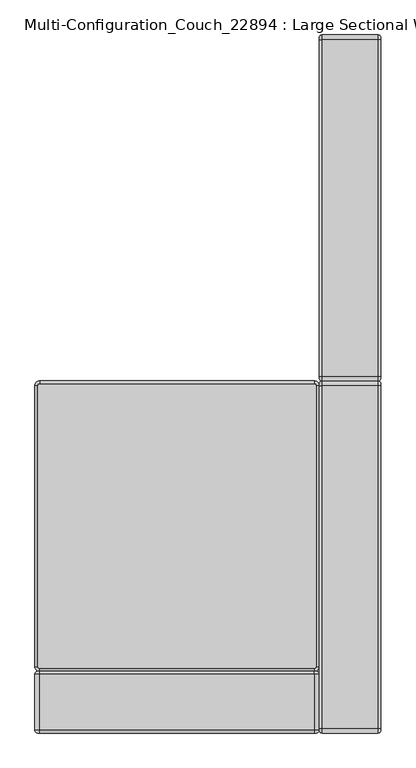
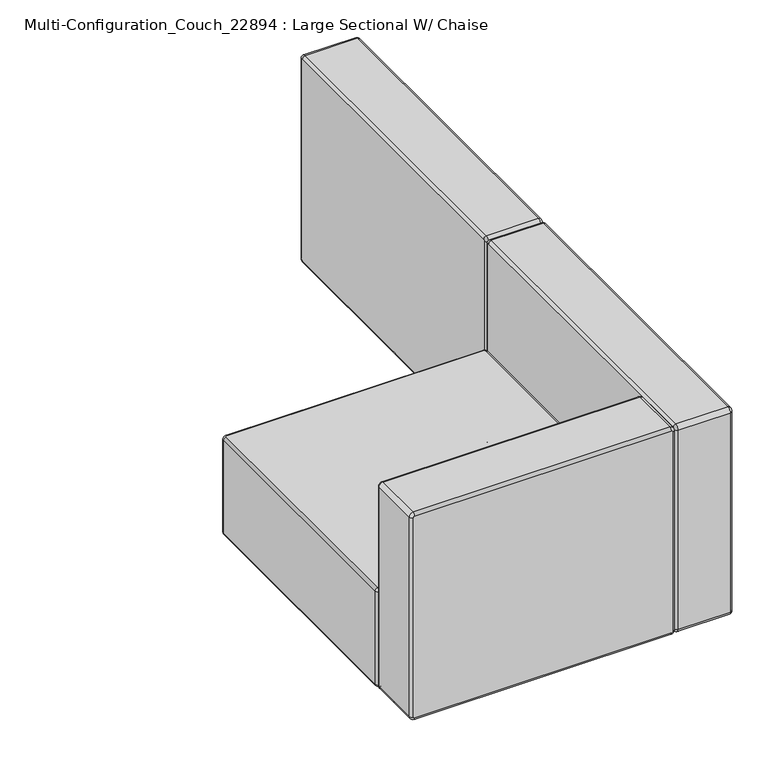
"""IFC4 building model written with IfcOpenShell, lengths in millimetres: furniture geometry, Multi-Configuration_Couch_22894 : Large Sectional W/ Chaise."""

from ifc_helpers import new_model, si_unit, point, frame, origin, place, context, project, spatial, circle_curve, ellipse_curve, trimmed, source, transform, mapped, element, save
from ifc_brep_helpers import plane_surface, cylinder_surface, revolved_surface, advanced_brep


def multi_configuration_couch_22894_large_sectional_w_chaise_e7fac233(model_context):
    return source(origin(), model_context, "Body", "AdvancedBrep", [
        advanced_brep(
        [(1868.7737705, -98.4770492, 549.275), (1868.7737705, -95.3020492, 552.45), (1868.7737705, 596.8479508, 552.45), (1868.7737705, 600.0229508, 549.275), (1868.7737705, 600.0229508, 85.725), (1868.7737705, 596.8479508, 82.55), (1868.7737705, -95.3020492, 82.55), (1868.7737705, -98.4770492, 85.725), (1995.7737705, -98.4770492, 85.725), (1995.7737705, -95.3020492, 82.55), (1995.7737705, 596.8479508, 82.55), (1995.7737705, 600.0229508, 85.725), (1995.7737705, 600.0229508, 549.275), (1995.7737705, 596.8479508, 552.45), (1995.7737705, -95.3020492, 552.45), (1995.7737705, -98.4770492, 549.275), (1875.1237705, -95.3020492, 558.8), (1989.4237705, -95.3020492, 558.8), (1989.4237705, 596.8479508, 558.8), (1875.1237641, 596.8479508, 558.8), (1875.1237705, -104.8270492, 85.725), (1989.4237705, -104.8270492, 85.725), (1989.4237705, -104.8270492, 549.275), (1875.1237705, -104.8270492, 549.275), (1875.1237705, 596.8479508, 76.2), (1989.4237705, 596.8479508, 76.2), (1989.4237705, -95.3020492, 76.2), (1875.1237705, -95.3020492, 76.2), (1875.1237705, 606.3729508, 549.275), (1989.4237705, 606.3729508, 549.275), (1989.4237705, 606.3729508, 85.725), (1875.1237705, 606.3729508, 85.725)],
        [
            (0, 1, circle_curve(frame((1868.7737705, -95.3020492, 549.275), z_axis=(-1.0, 0.0, 0.0), x_axis=(0.0, 0.0, 1.0)), 3.175)),
            (1, 2),
            (2, 3, circle_curve(frame((1868.7737705, 596.8479508, 549.275), z_axis=(-1.0, 0.0, 0.0), x_axis=(0.0, 1.0, 0.0)), 3.175)),
            (3, 4),
            (4, 5, circle_curve(frame((1868.7737705, 596.8479508, 85.725), z_axis=(-1.0, 0.0, 0.0), x_axis=(0.0, 0.0, -1.0)), 3.175)),
            (5, 6),
            (6, 7, circle_curve(frame((1868.7737705, -95.3020492, 85.725), z_axis=(-1.0, 0.0, 0.0), x_axis=(0.0, -1.0, 0.0)), 3.175)),
            (7, 0),
            (8, 9, circle_curve(frame((1995.7737705, -95.3020492, 85.725), z_axis=(1.0, 0.0, 0.0), x_axis=(0.0, -1.0, 0.0)), 3.175)),
            (9, 10),
            (10, 11, circle_curve(frame((1995.7737705, 596.8479508, 85.725), z_axis=(1.0, 0.0, 0.0), x_axis=(0.0, 0.0, -1.0)), 3.175)),
            (11, 12),
            (12, 13, circle_curve(frame((1995.7737705, 596.8479508, 549.275), z_axis=(1.0, 0.0, 0.0), x_axis=(0.0, 1.0, 0.0)), 3.175)),
            (13, 14),
            (14, 15, circle_curve(frame((1995.7737705, -95.3020492, 549.275), z_axis=(1.0, 0.0, 0.0), x_axis=(0.0, 0.0, 1.0)), 3.175)),
            (15, 8),
            (16, 17),
            (17, 18),
            (18, 19),
            (19, 16),
            (20, 21),
            (21, 22),
            (22, 23),
            (23, 20),
            (24, 25),
            (25, 26),
            (26, 27),
            (27, 24),
            (28, 29),
            (29, 30),
            (30, 31),
            (31, 28),
            (22, 17, circle_curve(frame((1989.4237705, -95.3020492, 549.275), z_axis=(-1.0, 0.0, 0.0), x_axis=(0.0, 1.0, 0.0)), 9.525)),
            (16, 23, circle_curve(frame((1875.1237705, -95.3020492, 549.275), z_axis=(1.0, 0.0, 0.0), x_axis=(0.0, 1.0, 0.0)), 9.525)),
            (18, 29, circle_curve(frame((1989.4237705, 596.8479508, 549.275), z_axis=(-1.0, 0.0, 0.0), x_axis=(0.0, 1.0, 0.0)), 9.525)),
            (28, 19, circle_curve(frame((1875.1237705, 596.8479508, 549.275), z_axis=(1.0, 0.0, 0.0), x_axis=(0.0, 1.0, 0.0)), 9.525)),
            (26, 21, circle_curve(frame((1989.4237705, -95.3020492, 85.725), z_axis=(-1.0, 0.0, 0.0), x_axis=(0.0, 1.0, 0.0)), 9.525)),
            (20, 27, circle_curve(frame((1875.1237705, -95.3020492, 85.725), z_axis=(1.0, 0.0, 0.0), x_axis=(0.0, 1.0, 0.0)), 9.525)),
            (30, 25, circle_curve(frame((1989.4237705, 596.8479508, 85.725), z_axis=(-1.0, 0.0, 0.0), x_axis=(0.0, 1.0, 0.0)), 9.525)),
            (24, 31, circle_curve(frame((1875.1237705, 596.8479508, 85.725), z_axis=(1.0, 0.0, 0.0), x_axis=(0.0, 1.0, 0.0)), 9.525)),
            (23, 0, circle_curve(frame((1875.1237705, -98.4770492, 549.275), z_axis=(0.0, 0.0, -1.0), x_axis=(0.0, 1.0, 0.0)), 6.35)),
            (7, 20, circle_curve(frame((1875.1237705, -98.4770492, 85.725), z_axis=(0.0, 0.0, 1.0), x_axis=(0.0, 1.0, 0.0)), 6.35)),
            (27, 6, circle_curve(frame((1875.1237705, -95.3020492, 82.55), z_axis=(0.0, 1.0, 0.0), x_axis=(0.0, 0.0, 1.0)), 6.35)),
            (5, 24, circle_curve(frame((1875.1237705, 596.8479508, 82.55), z_axis=(0.0, -1.0, 0.0), x_axis=(0.0, 0.0, 1.0)), 6.35)),
            (31, 4, circle_curve(frame((1875.1237705, 600.0229508, 85.725), z_axis=(0.0, 0.0, 1.0), x_axis=(0.0, -1.0, 0.0)), 6.35)),
            (3, 28, circle_curve(frame((1875.1237705, 600.0229508, 549.275), z_axis=(0.0, 0.0, -1.0), x_axis=(0.0, -1.0, 0.0)), 6.35)),
            (2, 19, circle_curve(frame((1875.1237705, 596.8479508, 552.45), z_axis=(0.0, 1.0, 0.0), x_axis=(0.0, 0.0, -1.0)), 6.35)),
            (1, 16, circle_curve(frame((1875.1237705, -95.3020492, 552.45), z_axis=(0.0, 1.0, 0.0), x_axis=(0.0, 0.0, -1.0)), 6.35)),
            (15, 22, circle_curve(frame((1989.4237705, -98.4770492, 549.275), z_axis=(0.0, 0.0, -1.0), x_axis=(0.0, 1.0, 0.0)), 6.35)),
            (21, 8, circle_curve(frame((1989.4237705, -98.4770492, 85.725), z_axis=(0.0, 0.0, 1.0), x_axis=(0.0, 1.0, 0.0)), 6.35)),
            (9, 26, circle_curve(frame((1989.4237705, -95.3020492, 82.55), z_axis=(0.0, 1.0, 0.0), x_axis=(0.0, 0.0, 1.0)), 6.35)),
            (25, 10, circle_curve(frame((1989.4237705, 596.8479508, 82.55), z_axis=(0.0, -1.0, 0.0), x_axis=(0.0, 0.0, 1.0)), 6.35)),
            (11, 30, circle_curve(frame((1989.4237705, 600.0229508, 85.725), z_axis=(0.0, 0.0, 1.0), x_axis=(0.0, -1.0, 0.0)), 6.35)),
            (29, 12, circle_curve(frame((1989.4237705, 600.0229508, 549.275), z_axis=(0.0, 0.0, -1.0), x_axis=(0.0, -1.0, 0.0)), 6.35)),
            (13, 18, circle_curve(frame((1989.4237705, 596.8479508, 552.45), z_axis=(0.0, -1.0, 0.0), x_axis=(0.0, 0.0, -1.0)), 6.35)),
            (17, 14, circle_curve(frame((1989.4237705, -95.3020492, 552.45), z_axis=(0.0, 1.0, 0.0), x_axis=(0.0, 0.0, -1.0)), 6.35)),
        ],
        [
            plane_surface(frame((1868.7737705, -104.8270492, 558.8), z_axis=(-1.0, 0.0, 0.0), x_axis=(0.0, -1.0, 0.0))),
            plane_surface(frame((1995.7737705, -104.8270492, 558.8), z_axis=(1.0, 0.0, 0.0), x_axis=(0.0, 1.0, 0.0))),
            plane_surface(frame((1868.7737705, 606.3729508, 558.8), z_axis=(0.0, 0.0, 1.0), x_axis=(1.0, 0.0, 0.0))),
            plane_surface(frame((1868.7737705, -104.8270492, 558.8), z_axis=(0.0, -1.0, 0.0), x_axis=(1.0, 0.0, 0.0))),
            plane_surface(frame((1868.7737705, -104.8270492, 76.2), z_axis=(0.0, 0.0, -1.0), x_axis=(1.0, 0.0, 0.0))),
            plane_surface(frame((1868.7737705, 606.3729508, 76.2), z_axis=(0.0, 1.0, 0.0), x_axis=(1.0, 0.0, 0.0))),
            cylinder_surface(frame((1995.7737705, -95.3020492, 549.275), z_axis=(1.0, 0.0, 0.0), x_axis=(0.0, 1.0, 0.0)), 9.525),
            cylinder_surface(frame((1995.7737705, 596.8479508, 549.275), z_axis=(1.0, 0.0, 0.0), x_axis=(0.0, 1.0, 0.0)), 9.525),
            cylinder_surface(frame((1995.7737705, -95.3020492, 85.725), z_axis=(1.0, 0.0, 0.0), x_axis=(0.0, 1.0, 0.0)), 9.525),
            cylinder_surface(frame((1995.7737705, 596.8479508, 85.725), z_axis=(1.0, 0.0, 0.0), x_axis=(0.0, 1.0, 0.0)), 9.525),
            cylinder_surface(frame((1875.1237705, -98.4770492, 549.275), z_axis=(0.0, 0.0, -1.0), x_axis=(0.0, 1.0, 0.0)), 6.35),
            cylinder_surface(frame((1875.1237705, -95.3020492, 82.55), z_axis=(0.0, 1.0, 0.0), x_axis=(0.0, 0.0, 1.0)), 6.35),
            cylinder_surface(frame((1875.1237705, 600.0229508, 85.725), z_axis=(0.0, 0.0, 1.0), x_axis=(0.0, -1.0, 0.0)), 6.35),
            revolved_surface(trimmed(ellipse_curve(frame((1875.1237705, 600.0229508, 549.275), z_axis=(0.0, 0.0, 1.0), x_axis=(0.0, -1.0, 0.0)), 6.35, 6.35), [point((1875.1237705, 606.3729508, 549.275))], [point((1868.7737705, 600.0229508, 549.275))], True, "CARTESIAN"), (1868.7737705, 596.8479508, 549.275), (-1.0, 0.0, 0.0)),
            cylinder_surface(frame((1875.1237705, 596.8479508, 552.45), z_axis=(0.0, -1.0, 0.0), x_axis=(0.0, 0.0, -1.0)), 6.35),
            cylinder_surface(frame((1989.4237705, -98.4770492, 549.275), z_axis=(0.0, 0.0, -1.0), x_axis=(0.0, 1.0, 0.0)), 6.35),
            cylinder_surface(frame((1989.4237705, -95.3020492, 82.55), z_axis=(0.0, 1.0, 0.0), x_axis=(0.0, 0.0, 1.0)), 6.35),
            cylinder_surface(frame((1989.4237705, 600.0229508, 85.725), z_axis=(0.0, 0.0, 1.0), x_axis=(0.0, -1.0, 0.0)), 6.35),
            cylinder_surface(frame((1989.4237705, 596.8479508, 552.45), z_axis=(0.0, -1.0, 0.0), x_axis=(0.0, 0.0, -1.0)), 6.35),
            revolved_surface(trimmed(ellipse_curve(frame((1875.1237705, -95.3020492, 552.45), z_axis=(0.0, -1.0, 0.0), x_axis=(0.0, 0.0, -1.0)), 6.35, 6.35), [point((1875.1237705, -95.3020492, 558.8))], [point((1868.7737705, -95.3020492, 552.45))], True, "CARTESIAN"), (1868.7737705, -95.3020492, 549.275), (-1.0, 0.0, 0.0)),
            revolved_surface(trimmed(ellipse_curve(frame((1875.1237705, -98.4770492, 85.725), z_axis=(0.0, 0.0, -1.0), x_axis=(0.0, 1.0, 0.0)), 6.35, 6.35), [point((1875.1237705, -104.8270492, 85.725))], [point((1868.7737705, -98.4770492, 85.725))], True, "CARTESIAN"), (1868.7737705, -95.3020492, 85.725), (-1.0, 0.0, 0.0)),
            revolved_surface(trimmed(ellipse_curve(frame((1875.1237705, 596.8479508, 82.55), z_axis=(0.0, 1.0, 0.0), x_axis=(0.0, 0.0, 1.0)), 6.35, 6.35), [point((1875.1237705, 596.8479508, 76.2))], [point((1868.7737705, 596.8479508, 82.55))], True, "CARTESIAN"), (1868.7737705, 596.8479508, 85.725), (-1.0, 0.0, 0.0)),
            revolved_surface(trimmed(ellipse_curve(frame((1989.4237705, -95.3020492, 552.45), z_axis=(0.0, -1.0, 0.0), x_axis=(0.0, 0.0, -1.0)), 6.35, 6.35), [point((1995.7737705, -95.3020492, 552.45))], [point((1989.4237705, -95.3020492, 558.8))], True, "CARTESIAN"), (1995.7737705, -95.3020492, 549.275), (-1.0, 0.0, 0.0)),
            revolved_surface(trimmed(ellipse_curve(frame((1989.4237705, -98.4770492, 85.725), z_axis=(0.0, 0.0, -1.0), x_axis=(0.0, 1.0, 0.0)), 6.35, 6.35), [point((1995.7737705, -98.4770492, 85.725))], [point((1989.4237705, -104.8270492, 85.725))], True, "CARTESIAN"), (1995.7737705, -95.3020492, 85.725), (-1.0, 0.0, 0.0)),
            revolved_surface(trimmed(ellipse_curve(frame((1989.4237705, 596.8479508, 82.55), z_axis=(0.0, 1.0, 0.0), x_axis=(0.0, 0.0, 1.0)), 6.35, 6.35), [point((1995.7737705, 596.8479508, 82.55))], [point((1989.4237705, 596.8479508, 76.2))], True, "CARTESIAN"), (1995.7737705, 596.8479508, 85.725), (-1.0, 0.0, 0.0)),
            revolved_surface(trimmed(ellipse_curve(frame((1989.4237705, 600.0229508, 549.275), z_axis=(0.0, 0.0, 1.0), x_axis=(0.0, -1.0, 0.0)), 6.35, 6.35), [point((1995.7737705, 600.0229508, 549.275))], [point((1989.4237705, 606.3729508, 549.275))], True, "CARTESIAN"), (1995.7737705, 596.8479508, 549.275), (-1.0, 0.0, 0.0)),
        ],
        [
            (0, [[1, 2, 3, 4, 5, 6, 7, 8]]),
            (1, [[9, 10, 11, 12, 13, 14, 15, 16]]),
            (2, [[17, 18, 19, 20]]),
            (3, [[21, 22, 23, 24]]),
            (4, [[25, 26, 27, 28]]),
            (5, [[29, 30, 31, 32]]),
            (6, [[-23, 33, -17, 34]]),
            (7, [[-19, 35, -29, 36]]),
            (8, [[-27, 37, -21, 38]]),
            (9, [[-31, 39, -25, 40]]),
            (10, [[-24, 41, -8, 42]]),
            (11, [[-28, 43, -6, 44]]),
            (12, [[-32, 45, -4, 46]]),
            (13, [[-3, 47, -36, -46]]),
            (14, [[-2, 48, -20, -47]]),
            (15, [[-16, 49, -22, 50]]),
            (16, [[-10, 51, -26, 52]]),
            (17, [[-12, 53, -30, 54]]),
            (18, [[-14, 55, -18, 56]]),
            (19, [[-34, -48, -1, -41]]),
            (20, [[-7, -43, -38, -42]]),
            (21, [[-5, -45, -40, -44]]),
            (22, [[-15, -56, -33, -49]]),
            (23, [[-37, -51, -9, -50]]),
            (24, [[-39, -53, -11, -52]]),
            (25, [[-35, -55, -13, -54]]),
        ],
    ),
        advanced_brep(
        [(1868.7737705, -822.3770492, 549.275), (1868.7737705, -819.2020492, 552.45), (1868.7737705, -114.3520492, 552.45), (1868.7737705, -111.1770492, 549.275), (1868.7737705, -111.1770492, 85.725), (1868.7737705, -114.3520492, 82.55), (1868.7737705, -819.2020492, 82.55), (1868.7737705, -822.3770492, 85.725), (1995.7737705, -822.3770492, 85.725), (1995.7737705, -819.2020492, 82.55), (1995.7737705, -114.3520492, 82.55), (1995.7737705, -111.1770492, 85.725), (1995.7737705, -111.1770492, 549.275), (1995.7737705, -114.3520492, 552.45), (1995.7737705, -819.2020492, 552.45), (1995.7737705, -822.3770492, 549.275), (1875.1237705, -819.2020492, 558.8), (1989.4237705, -819.2020492, 558.8), (1989.4237705, -114.3520492, 558.8), (1875.1237641, -114.3520492, 558.8), (1875.1237705, -828.7270492, 85.725), (1989.4237705, -828.7270492, 85.725), (1989.4237705, -828.7270492, 549.275), (1875.1237705, -828.7270492, 549.275), (1875.1237705, -114.3520492, 76.2), (1989.4237705, -114.3520492, 76.2), (1989.4237705, -819.2020492, 76.2), (1875.1237705, -819.2020492, 76.2), (1875.1237705, -104.8270492, 549.275), (1989.4237705, -104.8270492, 549.275), (1989.4237705, -104.8270492, 85.725), (1875.1237705, -104.8270492, 85.725)],
        [
            (0, 1, circle_curve(frame((1868.7737705, -819.2020492, 549.275), z_axis=(-1.0, 0.0, 0.0), x_axis=(0.0, 0.0, 1.0)), 3.175)),
            (1, 2),
            (2, 3, circle_curve(frame((1868.7737705, -114.3520492, 549.275), z_axis=(-1.0, 0.0, 0.0), x_axis=(0.0, 1.0, 0.0)), 3.175)),
            (3, 4),
            (4, 5, circle_curve(frame((1868.7737705, -114.3520492, 85.725), z_axis=(-1.0, 0.0, 0.0), x_axis=(0.0, 0.0, -1.0)), 3.175)),
            (5, 6),
            (6, 7, circle_curve(frame((1868.7737705, -819.2020492, 85.725), z_axis=(-1.0, 0.0, 0.0), x_axis=(0.0, -1.0, 0.0)), 3.175)),
            (7, 0),
            (8, 9, circle_curve(frame((1995.7737705, -819.2020492, 85.725), z_axis=(1.0, 0.0, 0.0), x_axis=(0.0, -1.0, 0.0)), 3.175)),
            (9, 10),
            (10, 11, circle_curve(frame((1995.7737705, -114.3520492, 85.725), z_axis=(1.0, 0.0, 0.0), x_axis=(0.0, 0.0, -1.0)), 3.175)),
            (11, 12),
            (12, 13, circle_curve(frame((1995.7737705, -114.3520492, 549.275), z_axis=(1.0, 0.0, 0.0), x_axis=(0.0, 1.0, 0.0)), 3.175)),
            (13, 14),
            (14, 15, circle_curve(frame((1995.7737705, -819.2020492, 549.275), z_axis=(1.0, 0.0, 0.0), x_axis=(0.0, 0.0, 1.0)), 3.175)),
            (15, 8),
            (16, 17),
            (17, 18),
            (18, 19),
            (19, 16),
            (20, 21),
            (21, 22),
            (22, 23),
            (23, 20),
            (24, 25),
            (25, 26),
            (26, 27),
            (27, 24),
            (28, 29),
            (29, 30),
            (30, 31),
            (31, 28),
            (22, 17, circle_curve(frame((1989.4237705, -819.2020492, 549.275), z_axis=(-1.0, 0.0, 0.0), x_axis=(0.0, 1.0, 0.0)), 9.525)),
            (16, 23, circle_curve(frame((1875.1237705, -819.2020492, 549.275), z_axis=(1.0, 0.0, 0.0), x_axis=(0.0, 1.0, 0.0)), 9.525)),
            (18, 29, circle_curve(frame((1989.4237705, -114.3520492, 549.275), z_axis=(-1.0, 0.0, 0.0), x_axis=(0.0, 1.0, 0.0)), 9.525)),
            (28, 19, circle_curve(frame((1875.1237705, -114.3520492, 549.275), z_axis=(1.0, 0.0, 0.0), x_axis=(0.0, 1.0, 0.0)), 9.525)),
            (26, 21, circle_curve(frame((1989.4237705, -819.2020492, 85.725), z_axis=(-1.0, 0.0, 0.0), x_axis=(0.0, 1.0, 0.0)), 9.525)),
            (20, 27, circle_curve(frame((1875.1237705, -819.2020492, 85.725), z_axis=(1.0, 0.0, 0.0), x_axis=(0.0, 1.0, 0.0)), 9.525)),
            (30, 25, circle_curve(frame((1989.4237705, -114.3520492, 85.725), z_axis=(-1.0, 0.0, 0.0), x_axis=(0.0, 1.0, 0.0)), 9.525)),
            (24, 31, circle_curve(frame((1875.1237705, -114.3520492, 85.725), z_axis=(1.0, 0.0, 0.0), x_axis=(0.0, 1.0, 0.0)), 9.525)),
            (23, 0, circle_curve(frame((1875.1237705, -822.3770492, 549.275), z_axis=(0.0, 0.0, -1.0), x_axis=(0.0, 1.0, 0.0)), 6.35)),
            (7, 20, circle_curve(frame((1875.1237705, -822.3770492, 85.725), z_axis=(0.0, 0.0, 1.0), x_axis=(0.0, 1.0, 0.0)), 6.35)),
            (27, 6, circle_curve(frame((1875.1237705, -819.2020492, 82.55), z_axis=(0.0, 1.0, 0.0), x_axis=(0.0, 0.0, 1.0)), 6.35)),
            (5, 24, circle_curve(frame((1875.1237705, -114.3520492, 82.55), z_axis=(0.0, -1.0, 0.0), x_axis=(0.0, 0.0, 1.0)), 6.35)),
            (31, 4, circle_curve(frame((1875.1237705, -111.1770492, 85.725), z_axis=(0.0, 0.0, 1.0), x_axis=(0.0, -1.0, 0.0)), 6.35)),
            (3, 28, circle_curve(frame((1875.1237705, -111.1770492, 549.275), z_axis=(0.0, 0.0, -1.0), x_axis=(0.0, -1.0, 0.0)), 6.35)),
            (2, 19, circle_curve(frame((1875.1237705, -114.3520492, 552.45), z_axis=(0.0, 1.0, 0.0), x_axis=(0.0, 0.0, -1.0)), 6.35)),
            (1, 16, circle_curve(frame((1875.1237705, -819.2020492, 552.45), z_axis=(0.0, 1.0, 0.0), x_axis=(0.0, 0.0, -1.0)), 6.35)),
            (15, 22, circle_curve(frame((1989.4237705, -822.3770492, 549.275), z_axis=(0.0, 0.0, -1.0), x_axis=(0.0, 1.0, 0.0)), 6.35)),
            (21, 8, circle_curve(frame((1989.4237705, -822.3770492, 85.725), z_axis=(0.0, 0.0, 1.0), x_axis=(0.0, 1.0, 0.0)), 6.35)),
            (9, 26, circle_curve(frame((1989.4237705, -819.2020492, 82.55), z_axis=(0.0, 1.0, 0.0), x_axis=(0.0, 0.0, 1.0)), 6.35)),
            (25, 10, circle_curve(frame((1989.4237705, -114.3520492, 82.55), z_axis=(0.0, -1.0, 0.0), x_axis=(0.0, 0.0, 1.0)), 6.35)),
            (11, 30, circle_curve(frame((1989.4237705, -111.1770492, 85.725), z_axis=(0.0, 0.0, 1.0), x_axis=(0.0, -1.0, 0.0)), 6.35)),
            (29, 12, circle_curve(frame((1989.4237705, -111.1770492, 549.275), z_axis=(0.0, 0.0, -1.0), x_axis=(0.0, -1.0, 0.0)), 6.35)),
            (13, 18, circle_curve(frame((1989.4237705, -114.3520492, 552.45), z_axis=(0.0, -1.0, 0.0), x_axis=(0.0, 0.0, -1.0)), 6.35)),
            (17, 14, circle_curve(frame((1989.4237705, -819.2020492, 552.45), z_axis=(0.0, 1.0, 0.0), x_axis=(0.0, 0.0, -1.0)), 6.35)),
        ],
        [
            plane_surface(frame((1868.7737705, -828.7270492, 558.8), z_axis=(-1.0, 0.0, 0.0), x_axis=(0.0, -1.0, 0.0))),
            plane_surface(frame((1995.7737705, -828.7270492, 558.8), z_axis=(1.0, 0.0, 0.0), x_axis=(0.0, 1.0, 0.0))),
            plane_surface(frame((1868.7737705, -104.8270492, 558.8), z_axis=(0.0, 0.0, 1.0), x_axis=(1.0, 0.0, 0.0))),
            plane_surface(frame((1868.7737705, -828.7270492, 558.8), z_axis=(0.0, -1.0, 0.0), x_axis=(1.0, 0.0, 0.0))),
            plane_surface(frame((1868.7737705, -828.7270492, 76.2), z_axis=(0.0, 0.0, -1.0), x_axis=(1.0, 0.0, 0.0))),
            plane_surface(frame((1868.7737705, -104.8270492, 76.2), z_axis=(0.0, 1.0, 0.0), x_axis=(1.0, 0.0, 0.0))),
            cylinder_surface(frame((1995.7737705, -819.2020492, 549.275), z_axis=(1.0, 0.0, 0.0), x_axis=(0.0, 1.0, 0.0)), 9.525),
            cylinder_surface(frame((1995.7737705, -114.3520492, 549.275), z_axis=(1.0, 0.0, 0.0), x_axis=(0.0, 1.0, 0.0)), 9.525),
            cylinder_surface(frame((1995.7737705, -819.2020492, 85.725), z_axis=(1.0, 0.0, 0.0), x_axis=(0.0, 1.0, 0.0)), 9.525),
            cylinder_surface(frame((1995.7737705, -114.3520492, 85.725), z_axis=(1.0, 0.0, 0.0), x_axis=(0.0, 1.0, 0.0)), 9.525),
            cylinder_surface(frame((1875.1237705, -822.3770492, 549.275), z_axis=(0.0, 0.0, -1.0), x_axis=(0.0, 1.0, 0.0)), 6.35),
            cylinder_surface(frame((1875.1237705, -819.2020492, 82.55), z_axis=(0.0, 1.0, 0.0), x_axis=(0.0, 0.0, 1.0)), 6.35),
            cylinder_surface(frame((1875.1237705, -111.1770492, 85.725), z_axis=(0.0, 0.0, 1.0), x_axis=(0.0, -1.0, 0.0)), 6.35),
            revolved_surface(trimmed(ellipse_curve(frame((1875.1237705, -111.1770492, 549.275), z_axis=(0.0, 0.0, 1.0), x_axis=(0.0, -1.0, 0.0)), 6.35, 6.35), [point((1875.1237705, -104.8270492, 549.275))], [point((1868.7737705, -111.1770492, 549.275))], True, "CARTESIAN"), (1868.7737705, -114.3520492, 549.275), (-1.0, 0.0, 0.0)),
            cylinder_surface(frame((1875.1237705, -114.3520492, 552.45), z_axis=(0.0, -1.0, 0.0), x_axis=(0.0, 0.0, -1.0)), 6.35),
            cylinder_surface(frame((1989.4237705, -822.3770492, 549.275), z_axis=(0.0, 0.0, -1.0), x_axis=(0.0, 1.0, 0.0)), 6.35),
            cylinder_surface(frame((1989.4237705, -819.2020492, 82.55), z_axis=(0.0, 1.0, 0.0), x_axis=(0.0, 0.0, 1.0)), 6.35),
            cylinder_surface(frame((1989.4237705, -111.1770492, 85.725), z_axis=(0.0, 0.0, 1.0), x_axis=(0.0, -1.0, 0.0)), 6.35),
            cylinder_surface(frame((1989.4237705, -114.3520492, 552.45), z_axis=(0.0, -1.0, 0.0), x_axis=(0.0, 0.0, -1.0)), 6.35),
            revolved_surface(trimmed(ellipse_curve(frame((1875.1237705, -819.2020492, 552.45), z_axis=(0.0, -1.0, 0.0), x_axis=(0.0, 0.0, -1.0)), 6.35, 6.35), [point((1875.1237705, -819.2020492, 558.8))], [point((1868.7737705, -819.2020492, 552.45))], True, "CARTESIAN"), (1868.7737705, -819.2020492, 549.275), (-1.0, 0.0, 0.0)),
            revolved_surface(trimmed(ellipse_curve(frame((1875.1237705, -822.3770492, 85.725), z_axis=(0.0, 0.0, -1.0), x_axis=(0.0, 1.0, 0.0)), 6.35, 6.35), [point((1875.1237705, -828.7270492, 85.725))], [point((1868.7737705, -822.3770492, 85.725))], True, "CARTESIAN"), (1868.7737705, -819.2020492, 85.725), (-1.0, 0.0, 0.0)),
            revolved_surface(trimmed(ellipse_curve(frame((1875.1237705, -114.3520492, 82.55), z_axis=(0.0, 1.0, 0.0), x_axis=(0.0, 0.0, 1.0)), 6.35, 6.35), [point((1875.1237705, -114.3520492, 76.2))], [point((1868.7737705, -114.3520492, 82.55))], True, "CARTESIAN"), (1868.7737705, -114.3520492, 85.725), (-1.0, 0.0, 0.0)),
            revolved_surface(trimmed(ellipse_curve(frame((1989.4237705, -819.2020492, 552.45), z_axis=(0.0, -1.0, 0.0), x_axis=(0.0, 0.0, -1.0)), 6.35, 6.35), [point((1995.7737705, -819.2020492, 552.45))], [point((1989.4237705, -819.2020492, 558.8))], True, "CARTESIAN"), (1995.7737705, -819.2020492, 549.275), (-1.0, 0.0, 0.0)),
            revolved_surface(trimmed(ellipse_curve(frame((1989.4237705, -822.3770492, 85.725), z_axis=(0.0, 0.0, -1.0), x_axis=(0.0, 1.0, 0.0)), 6.35, 6.35), [point((1995.7737705, -822.3770492, 85.725))], [point((1989.4237705, -828.7270492, 85.725))], True, "CARTESIAN"), (1995.7737705, -819.2020492, 85.725), (-1.0, 0.0, 0.0)),
            revolved_surface(trimmed(ellipse_curve(frame((1989.4237705, -114.3520492, 82.55), z_axis=(0.0, 1.0, 0.0), x_axis=(0.0, 0.0, 1.0)), 6.35, 6.35), [point((1995.7737705, -114.3520492, 82.55))], [point((1989.4237705, -114.3520492, 76.2))], True, "CARTESIAN"), (1995.7737705, -114.3520492, 85.725), (-1.0, 0.0, 0.0)),
            revolved_surface(trimmed(ellipse_curve(frame((1989.4237705, -111.1770492, 549.275), z_axis=(0.0, 0.0, 1.0), x_axis=(0.0, -1.0, 0.0)), 6.35, 6.35), [point((1995.7737705, -111.1770492, 549.275))], [point((1989.4237705, -104.8270492, 549.275))], True, "CARTESIAN"), (1995.7737705, -114.3520492, 549.275), (-1.0, 0.0, 0.0)),
        ],
        [
            (0, [[1, 2, 3, 4, 5, 6, 7, 8]]),
            (1, [[9, 10, 11, 12, 13, 14, 15, 16]]),
            (2, [[17, 18, 19, 20]]),
            (3, [[21, 22, 23, 24]]),
            (4, [[25, 26, 27, 28]]),
            (5, [[29, 30, 31, 32]]),
            (6, [[-23, 33, -17, 34]]),
            (7, [[-19, 35, -29, 36]]),
            (8, [[-27, 37, -21, 38]]),
            (9, [[-31, 39, -25, 40]]),
            (10, [[-24, 41, -8, 42]]),
            (11, [[-28, 43, -6, 44]]),
            (12, [[-32, 45, -4, 46]]),
            (13, [[-3, 47, -36, -46]]),
            (14, [[-2, 48, -20, -47]]),
            (15, [[-16, 49, -22, 50]]),
            (16, [[-10, 51, -26, 52]]),
            (17, [[-12, 53, -30, 54]]),
            (18, [[-14, 55, -18, 56]]),
            (19, [[-34, -48, -1, -41]]),
            (20, [[-7, -43, -38, -42]]),
            (21, [[-5, -45, -40, -44]]),
            (22, [[-15, -56, -33, -49]]),
            (23, [[-37, -51, -9, -50]]),
            (24, [[-39, -53, -11, -52]]),
            (25, [[-35, -55, -13, -54]]),
        ],
    ),
        advanced_brep(
        [(1290.9237705, -701.7270492, 549.275), (1294.0987705, -701.7270492, 552.45), (1859.2487705, -701.7270492, 552.45), (1862.4237705, -701.7270492, 549.275), (1862.4237705, -701.7270492, 85.725), (1859.2487705, -701.7270492, 82.55), (1294.0987705, -701.7270492, 82.55), (1290.9237705, -701.7270492, 85.725), (1290.9237705, -828.7270492, 85.725), (1294.0987705, -828.7270492, 82.55), (1859.2487705, -828.7270492, 82.55), (1862.4237705, -828.7270492, 85.725), (1862.4237705, -828.7270492, 549.275), (1859.2487705, -828.7270492, 552.45), (1294.0987705, -828.7270492, 552.45), (1290.9237705, -828.7270492, 549.275), (1294.0987705, -708.0770492, 558.8), (1294.0987705, -822.3770492, 558.8), (1859.2487705, -822.3770492, 558.8), (1859.2487705, -708.0770428, 558.8), (1284.5737705, -708.0770492, 85.725), (1284.5737705, -822.3770492, 85.725), (1284.5737705, -822.3770492, 549.275), (1284.5737705, -708.0770492, 549.275), (1859.2487705, -708.0770492, 76.2), (1859.2487705, -822.3770492, 76.2), (1294.0987705, -822.3770492, 76.2), (1294.0987705, -708.0770492, 76.2), (1868.7737705, -708.0770492, 549.275), (1868.7737705, -822.3770492, 549.275), (1868.7737705, -822.3770492, 85.725), (1868.7737705, -708.0770492, 85.725)],
        [
            (0, 1, circle_curve(frame((1294.0987705, -701.7270492, 549.275), z_axis=(0.0, 1.0, 0.0), x_axis=(0.0, 0.0, 1.0)), 3.175)),
            (1, 2),
            (2, 3, circle_curve(frame((1859.2487705, -701.7270492, 549.275), z_axis=(0.0, 1.0, 0.0), x_axis=(1.0, 0.0, 0.0)), 3.175)),
            (3, 4),
            (4, 5, circle_curve(frame((1859.2487705, -701.7270492, 85.725), z_axis=(0.0, 1.0, 0.0), x_axis=(0.0, 0.0, -1.0)), 3.175)),
            (5, 6),
            (6, 7, circle_curve(frame((1294.0987705, -701.7270492, 85.725), z_axis=(0.0, 1.0, 0.0), x_axis=(-1.0, 0.0, 0.0)), 3.175)),
            (7, 0),
            (8, 9, circle_curve(frame((1294.0987705, -828.7270492, 85.725), z_axis=(0.0, -1.0, 0.0), x_axis=(-1.0, 0.0, 0.0)), 3.175)),
            (9, 10),
            (10, 11, circle_curve(frame((1859.2487705, -828.7270492, 85.725), z_axis=(0.0, -1.0, 0.0), x_axis=(0.0, 0.0, -1.0)), 3.175)),
            (11, 12),
            (12, 13, circle_curve(frame((1859.2487705, -828.7270492, 549.275), z_axis=(0.0, -1.0, 0.0), x_axis=(1.0, 0.0, 0.0)), 3.175)),
            (13, 14),
            (14, 15, circle_curve(frame((1294.0987705, -828.7270492, 549.275), z_axis=(0.0, -1.0, 0.0), x_axis=(0.0, 0.0, 1.0)), 3.175)),
            (15, 8),
            (16, 17),
            (17, 18),
            (18, 19),
            (19, 16),
            (20, 21),
            (21, 22),
            (22, 23),
            (23, 20),
            (24, 25),
            (25, 26),
            (26, 27),
            (27, 24),
            (28, 29),
            (29, 30),
            (30, 31),
            (31, 28),
            (22, 17, circle_curve(frame((1294.0987705, -822.3770492, 549.275), z_axis=(0.0, 1.0, 0.0), x_axis=(1.0, 0.0, 0.0)), 9.525)),
            (16, 23, circle_curve(frame((1294.0987705, -708.0770492, 549.275), z_axis=(0.0, -1.0, 0.0), x_axis=(1.0, 0.0, 0.0)), 9.525)),
            (18, 29, circle_curve(frame((1859.2487705, -822.3770492, 549.275), z_axis=(0.0, 1.0, 0.0), x_axis=(1.0, 0.0, 0.0)), 9.525)),
            (28, 19, circle_curve(frame((1859.2487705, -708.0770492, 549.275), z_axis=(0.0, -1.0, 0.0), x_axis=(1.0, 0.0, 0.0)), 9.525)),
            (26, 21, circle_curve(frame((1294.0987705, -822.3770492, 85.725), z_axis=(0.0, 1.0, 0.0), x_axis=(1.0, 0.0, 0.0)), 9.525)),
            (20, 27, circle_curve(frame((1294.0987705, -708.0770492, 85.725), z_axis=(0.0, -1.0, 0.0), x_axis=(1.0, 0.0, 0.0)), 9.525)),
            (30, 25, circle_curve(frame((1859.2487705, -822.3770492, 85.725), z_axis=(0.0, 1.0, 0.0), x_axis=(1.0, 0.0, 0.0)), 9.525)),
            (24, 31, circle_curve(frame((1859.2487705, -708.0770492, 85.725), z_axis=(0.0, -1.0, 0.0), x_axis=(1.0, 0.0, 0.0)), 9.525)),
            (23, 0, circle_curve(frame((1290.9237705, -708.0770492, 549.275), z_axis=(0.0, 0.0, -1.0), x_axis=(1.0, 0.0, 0.0)), 6.35)),
            (7, 20, circle_curve(frame((1290.9237705, -708.0770492, 85.725), z_axis=(0.0, 0.0, 1.0), x_axis=(1.0, 0.0, 0.0)), 6.35)),
            (27, 6, circle_curve(frame((1294.0987705, -708.0770492, 82.55), z_axis=(1.0, 0.0, 0.0), x_axis=(0.0, 0.0, 1.0)), 6.35)),
            (5, 24, circle_curve(frame((1859.2487705, -708.0770492, 82.55), z_axis=(-1.0, 0.0, 0.0), x_axis=(0.0, 0.0, 1.0)), 6.35)),
            (31, 4, circle_curve(frame((1862.4237705, -708.0770492, 85.725), z_axis=(0.0, 0.0, 1.0), x_axis=(-1.0, 0.0, 0.0)), 6.35)),
            (3, 28, circle_curve(frame((1862.4237705, -708.0770492, 549.275), z_axis=(0.0, 0.0, -1.0), x_axis=(-1.0, 0.0, 0.0)), 6.35)),
            (2, 19, circle_curve(frame((1859.2487705, -708.0770492, 552.45), z_axis=(1.0, 0.0, 0.0), x_axis=(0.0, 0.0, -1.0)), 6.35)),
            (1, 16, circle_curve(frame((1294.0987705, -708.0770492, 552.45), z_axis=(1.0, 0.0, 0.0), x_axis=(0.0, 0.0, -1.0)), 6.35)),
            (15, 22, circle_curve(frame((1290.9237705, -822.3770492, 549.275), z_axis=(0.0, 0.0, -1.0), x_axis=(1.0, 0.0, 0.0)), 6.35)),
            (21, 8, circle_curve(frame((1290.9237705, -822.3770492, 85.725), z_axis=(0.0, 0.0, 1.0), x_axis=(1.0, 0.0, 0.0)), 6.35)),
            (9, 26, circle_curve(frame((1294.0987705, -822.3770492, 82.55), z_axis=(1.0, 0.0, 0.0), x_axis=(0.0, 0.0, 1.0)), 6.35)),
            (25, 10, circle_curve(frame((1859.2487705, -822.3770492, 82.55), z_axis=(-1.0, 0.0, 0.0), x_axis=(0.0, 0.0, 1.0)), 6.35)),
            (11, 30, circle_curve(frame((1862.4237705, -822.3770492, 85.725), z_axis=(0.0, 0.0, 1.0), x_axis=(-1.0, 0.0, 0.0)), 6.35)),
            (29, 12, circle_curve(frame((1862.4237705, -822.3770492, 549.275), z_axis=(0.0, 0.0, -1.0), x_axis=(-1.0, 0.0, 0.0)), 6.35)),
            (13, 18, circle_curve(frame((1859.2487705, -822.3770492, 552.45), z_axis=(-1.0, 0.0, 0.0), x_axis=(0.0, 0.0, -1.0)), 6.35)),
            (17, 14, circle_curve(frame((1294.0987705, -822.3770492, 552.45), z_axis=(1.0, 0.0, 0.0), x_axis=(0.0, 0.0, -1.0)), 6.35)),
        ],
        [
            plane_surface(frame((1284.5737705, -701.7270492, 558.8), z_axis=(0.0, 1.0, 0.0), x_axis=(-1.0, 0.0, 0.0))),
            plane_surface(frame((1284.5737705, -828.7270492, 558.8), z_axis=(0.0, -1.0, 0.0), x_axis=(1.0, 0.0, 0.0))),
            plane_surface(frame((1868.7737705, -701.7270492, 558.8), z_axis=(0.0, 0.0, 1.0), x_axis=(0.0, -1.0, 0.0))),
            plane_surface(frame((1284.5737705, -701.7270492, 558.8), z_axis=(-1.0, 0.0, 0.0), x_axis=(0.0, -1.0, 0.0))),
            plane_surface(frame((1284.5737705, -701.7270492, 76.2), z_axis=(0.0, 0.0, -1.0), x_axis=(0.0, -1.0, 0.0))),
            plane_surface(frame((1868.7737705, -701.7270492, 76.2), z_axis=(1.0, 0.0, 0.0), x_axis=(0.0, -1.0, 0.0))),
            cylinder_surface(frame((1294.0987705, -828.7270492, 549.275), z_axis=(0.0, -1.0, 0.0), x_axis=(1.0, 0.0, 0.0)), 9.525),
            cylinder_surface(frame((1859.2487705, -828.7270492, 549.275), z_axis=(0.0, -1.0, 0.0), x_axis=(1.0, 0.0, 0.0)), 9.525),
            cylinder_surface(frame((1294.0987705, -828.7270492, 85.725), z_axis=(0.0, -1.0, 0.0), x_axis=(1.0, 0.0, 0.0)), 9.525),
            cylinder_surface(frame((1859.2487705, -828.7270492, 85.725), z_axis=(0.0, -1.0, 0.0), x_axis=(1.0, 0.0, 0.0)), 9.525),
            cylinder_surface(frame((1290.9237705, -708.0770492, 549.275), z_axis=(0.0, 0.0, -1.0), x_axis=(1.0, 0.0, 0.0)), 6.35),
            cylinder_surface(frame((1294.0987705, -708.0770492, 82.55), z_axis=(1.0, 0.0, 0.0), x_axis=(0.0, 0.0, 1.0)), 6.35),
            cylinder_surface(frame((1862.4237705, -708.0770492, 85.725), z_axis=(0.0, 0.0, 1.0), x_axis=(-1.0, 0.0, 0.0)), 6.35),
            revolved_surface(trimmed(ellipse_curve(frame((1862.4237705, -708.0770492, 549.275), z_axis=(0.0, 0.0, 1.0), x_axis=(-1.0, 0.0, 0.0)), 6.35, 6.35), [point((1868.7737705, -708.0770492, 549.275))], [point((1862.4237705, -701.7270492, 549.275))], True, "CARTESIAN"), (1859.2487705, -701.7270492, 549.275), (0.0, 1.0, 0.0)),
            cylinder_surface(frame((1859.2487705, -708.0770492, 552.45), z_axis=(-1.0, 0.0, 0.0), x_axis=(0.0, 0.0, -1.0)), 6.35),
            cylinder_surface(frame((1290.9237705, -822.3770492, 549.275), z_axis=(0.0, 0.0, -1.0), x_axis=(1.0, 0.0, 0.0)), 6.35),
            cylinder_surface(frame((1294.0987705, -822.3770492, 82.55), z_axis=(1.0, 0.0, 0.0), x_axis=(0.0, 0.0, 1.0)), 6.35),
            cylinder_surface(frame((1862.4237705, -822.3770492, 85.725), z_axis=(0.0, 0.0, 1.0), x_axis=(-1.0, 0.0, 0.0)), 6.35),
            cylinder_surface(frame((1859.2487705, -822.3770492, 552.45), z_axis=(-1.0, 0.0, 0.0), x_axis=(0.0, 0.0, -1.0)), 6.35),
            revolved_surface(trimmed(ellipse_curve(frame((1294.0987705, -708.0770492, 552.45), z_axis=(-1.0, 0.0, 0.0), x_axis=(0.0, 0.0, -1.0)), 6.35, 6.35), [point((1294.0987705, -708.0770492, 558.8))], [point((1294.0987705, -701.7270492, 552.45))], True, "CARTESIAN"), (1294.0987705, -701.7270492, 549.275), (0.0, 1.0, 0.0)),
            revolved_surface(trimmed(ellipse_curve(frame((1290.9237705, -708.0770492, 85.725), z_axis=(0.0, 0.0, -1.0), x_axis=(1.0, 0.0, 0.0)), 6.35, 6.35), [point((1284.5737705, -708.0770492, 85.725))], [point((1290.9237705, -701.7270492, 85.725))], True, "CARTESIAN"), (1294.0987705, -701.7270492, 85.725), (0.0, 1.0, 0.0)),
            revolved_surface(trimmed(ellipse_curve(frame((1859.2487705, -708.0770492, 82.55), z_axis=(1.0, 0.0, 0.0), x_axis=(0.0, 0.0, 1.0)), 6.35, 6.35), [point((1859.2487705, -708.0770492, 76.2))], [point((1859.2487705, -701.7270492, 82.55))], True, "CARTESIAN"), (1859.2487705, -701.7270492, 85.725), (0.0, 1.0, 0.0)),
            revolved_surface(trimmed(ellipse_curve(frame((1294.0987705, -822.3770492, 552.45), z_axis=(-1.0, 0.0, 0.0), x_axis=(0.0, 0.0, -1.0)), 6.35, 6.35), [point((1294.0987705, -828.7270492, 552.45))], [point((1294.0987705, -822.3770492, 558.8))], True, "CARTESIAN"), (1294.0987705, -828.7270492, 549.275), (0.0, 1.0, 0.0)),
            revolved_surface(trimmed(ellipse_curve(frame((1290.9237705, -822.3770492, 85.725), z_axis=(0.0, 0.0, -1.0), x_axis=(1.0, 0.0, 0.0)), 6.35, 6.35), [point((1290.9237705, -828.7270492, 85.725))], [point((1284.5737705, -822.3770492, 85.725))], True, "CARTESIAN"), (1294.0987705, -828.7270492, 85.725), (0.0, 1.0, 0.0)),
            revolved_surface(trimmed(ellipse_curve(frame((1859.2487705, -822.3770492, 82.55), z_axis=(1.0, 0.0, 0.0), x_axis=(0.0, 0.0, 1.0)), 6.35, 6.35), [point((1859.2487705, -828.7270492, 82.55))], [point((1859.2487705, -822.3770492, 76.2))], True, "CARTESIAN"), (1859.2487705, -828.7270492, 85.725), (0.0, 1.0, 0.0)),
            revolved_surface(trimmed(ellipse_curve(frame((1862.4237705, -822.3770492, 549.275), z_axis=(0.0, 0.0, 1.0), x_axis=(-1.0, 0.0, 0.0)), 6.35, 6.35), [point((1862.4237705, -828.7270492, 549.275))], [point((1868.7737705, -822.3770492, 549.275))], True, "CARTESIAN"), (1859.2487705, -828.7270492, 549.275), (0.0, 1.0, 0.0)),
        ],
        [
            (0, [[1, 2, 3, 4, 5, 6, 7, 8]]),
            (1, [[9, 10, 11, 12, 13, 14, 15, 16]]),
            (2, [[17, 18, 19, 20]]),
            (3, [[21, 22, 23, 24]]),
            (4, [[25, 26, 27, 28]]),
            (5, [[29, 30, 31, 32]]),
            (6, [[-23, 33, -17, 34]]),
            (7, [[-19, 35, -29, 36]]),
            (8, [[-27, 37, -21, 38]]),
            (9, [[-31, 39, -25, 40]]),
            (10, [[-24, 41, -8, 42]]),
            (11, [[-28, 43, -6, 44]]),
            (12, [[-32, 45, -4, 46]]),
            (13, [[-3, 47, -36, -46]]),
            (14, [[-2, 48, -20, -47]]),
            (15, [[-16, 49, -22, 50]]),
            (16, [[-10, 51, -26, 52]]),
            (17, [[-12, 53, -30, 54]]),
            (18, [[-14, 55, -18, 56]]),
            (19, [[-34, -48, -1, -41]]),
            (20, [[-7, -43, -38, -42]]),
            (21, [[-5, -45, -40, -44]]),
            (22, [[-15, -56, -33, -49]]),
            (23, [[-37, -51, -9, -50]]),
            (24, [[-39, -53, -11, -52]]),
            (25, [[-35, -55, -13, -54]]),
        ],
    ),
        advanced_brep(
        [(1862.4237705, -114.3520492, 304.8), (1859.2487705, -111.1770492, 304.8), (1294.0987705, -111.1770492, 304.8), (1290.9237705, -114.3520492, 304.8), (1290.9237705, -692.2020492, 304.8), (1294.0987705, -695.3770492, 304.8), (1859.2487705, -695.3770492, 304.8), (1862.4237705, -692.2020492, 304.8), (1862.4237705, -692.2020492, 76.2), (1859.2487705, -695.3770492, 76.2), (1294.0987705, -695.3770492, 76.2), (1290.9237705, -692.2020492, 76.2), (1290.9237705, -114.3520492, 76.2), (1294.0987705, -111.1770492, 76.2), (1859.2487705, -111.1770492, 76.2), (1862.4237705, -114.3520492, 76.2), (1859.2487705, -104.8270492, 298.45), (1859.2487705, -104.8270492, 82.55), (1294.0987705, -104.8270492, 82.55), (1294.0987705, -104.8270492, 298.4500064), (1868.7737705, -692.2020492, 298.45), (1868.7737705, -692.2020492, 82.55), (1868.7737705, -114.3520492, 82.55), (1868.7737705, -114.3520492, 298.45), (1294.0987705, -701.7270492, 298.45), (1294.0987705, -701.7270492, 82.55), (1859.2487705, -701.7270492, 82.55), (1859.2487705, -701.7270492, 298.45), (1284.5737705, -114.3520492, 298.45), (1284.5737705, -114.3520492, 82.55), (1284.5737705, -692.2020492, 82.55), (1284.5737705, -692.2020492, 298.45)],
        [
            (0, 1, circle_curve(frame((1859.2487705, -114.3520492, 304.8), z_axis=(0.0, 0.0, 1.0), x_axis=(0.0, 1.0, 0.0)), 3.175)),
            (1, 2),
            (2, 3, circle_curve(frame((1294.0987705, -114.3520492, 304.8), z_axis=(0.0, 0.0, 1.0), x_axis=(-1.0, 0.0, 0.0)), 3.175)),
            (3, 4),
            (4, 5, circle_curve(frame((1294.0987705, -692.2020492, 304.8), z_axis=(0.0, 0.0, 1.0), x_axis=(0.0, -1.0, 0.0)), 3.175)),
            (5, 6),
            (6, 7, circle_curve(frame((1859.2487705, -692.2020492, 304.8), z_axis=(0.0, 0.0, 1.0), x_axis=(1.0, 0.0, 0.0)), 3.175)),
            (7, 0),
            (8, 9, circle_curve(frame((1859.2487705, -692.2020492, 76.2), z_axis=(0.0, 0.0, -1.0), x_axis=(1.0, 0.0, 0.0)), 3.175)),
            (9, 10),
            (10, 11, circle_curve(frame((1294.0987705, -692.2020492, 76.2), z_axis=(0.0, 0.0, -1.0), x_axis=(0.0, -1.0, 0.0)), 3.175)),
            (11, 12),
            (12, 13, circle_curve(frame((1294.0987705, -114.3520492, 76.2), z_axis=(0.0, 0.0, -1.0), x_axis=(-1.0, 0.0, 0.0)), 3.175)),
            (13, 14),
            (14, 15, circle_curve(frame((1859.2487705, -114.3520492, 76.2), z_axis=(0.0, 0.0, -1.0), x_axis=(0.0, 1.0, 0.0)), 3.175)),
            (15, 8),
            (16, 17),
            (17, 18),
            (18, 19),
            (19, 16),
            (20, 21),
            (21, 22),
            (22, 23),
            (23, 20),
            (24, 25),
            (25, 26),
            (26, 27),
            (27, 24),
            (28, 29),
            (29, 30),
            (30, 31),
            (31, 28),
            (22, 17, circle_curve(frame((1859.2487705, -114.3520492, 82.55), z_axis=(0.0, 0.0, 1.0), x_axis=(-1.0, 0.0, 0.0)), 9.525)),
            (16, 23, circle_curve(frame((1859.2487705, -114.3520492, 298.45), z_axis=(0.0, 0.0, -1.0), x_axis=(-1.0, 0.0, 0.0)), 9.525)),
            (18, 29, circle_curve(frame((1294.0987705, -114.3520492, 82.55), z_axis=(0.0, 0.0, 1.0), x_axis=(-1.0, 0.0, 0.0)), 9.525)),
            (28, 19, circle_curve(frame((1294.0987705, -114.3520492, 298.45), z_axis=(0.0, 0.0, -1.0), x_axis=(-1.0, 0.0, 0.0)), 9.525)),
            (26, 21, circle_curve(frame((1859.2487705, -692.2020492, 82.55), z_axis=(0.0, 0.0, 1.0), x_axis=(-1.0, 0.0, 0.0)), 9.525)),
            (20, 27, circle_curve(frame((1859.2487705, -692.2020492, 298.45), z_axis=(0.0, 0.0, -1.0), x_axis=(-1.0, 0.0, 0.0)), 9.525)),
            (30, 25, circle_curve(frame((1294.0987705, -692.2020492, 82.55), z_axis=(0.0, 0.0, 1.0), x_axis=(-1.0, 0.0, 0.0)), 9.525)),
            (24, 31, circle_curve(frame((1294.0987705, -692.2020492, 298.45), z_axis=(0.0, 0.0, -1.0), x_axis=(-1.0, 0.0, 0.0)), 9.525)),
            (23, 0, circle_curve(frame((1862.4237705, -114.3520492, 298.45), z_axis=(0.0, -1.0, 0.0), x_axis=(-1.0, 0.0, 0.0)), 6.35)),
            (7, 20, circle_curve(frame((1862.4237705, -692.2020492, 298.45), z_axis=(0.0, 1.0, 0.0), x_axis=(-1.0, 0.0, 0.0)), 6.35)),
            (27, 6, circle_curve(frame((1859.2487705, -695.3770492, 298.45), z_axis=(-1.0, 0.0, 0.0), x_axis=(0.0, 1.0, 0.0)), 6.35)),
            (5, 24, circle_curve(frame((1294.0987705, -695.3770492, 298.45), z_axis=(1.0, 0.0, 0.0), x_axis=(0.0, 1.0, 0.0)), 6.35)),
            (31, 4, circle_curve(frame((1290.9237705, -692.2020492, 298.45), z_axis=(0.0, 1.0, 0.0), x_axis=(1.0, 0.0, 0.0)), 6.35)),
            (3, 28, circle_curve(frame((1290.9237705, -114.3520492, 298.45), z_axis=(0.0, -1.0, 0.0), x_axis=(1.0, 0.0, 0.0)), 6.35)),
            (2, 19, circle_curve(frame((1294.0987705, -111.1770492, 298.45), z_axis=(-1.0, 0.0, 0.0), x_axis=(0.0, -1.0, 0.0)), 6.35)),
            (1, 16, circle_curve(frame((1859.2487705, -111.1770492, 298.45), z_axis=(-1.0, 0.0, 0.0), x_axis=(0.0, -1.0, 0.0)), 6.35)),
            (15, 22, circle_curve(frame((1862.4237705, -114.3520492, 82.55), z_axis=(0.0, -1.0, 0.0), x_axis=(-1.0, 0.0, 0.0)), 6.35)),
            (21, 8, circle_curve(frame((1862.4237705, -692.2020492, 82.55), z_axis=(0.0, 1.0, 0.0), x_axis=(-1.0, 0.0, 0.0)), 6.35)),
            (9, 26, circle_curve(frame((1859.2487705, -695.3770492, 82.55), z_axis=(-1.0, 0.0, 0.0), x_axis=(0.0, 1.0, 0.0)), 6.35)),
            (25, 10, circle_curve(frame((1294.0987705, -695.3770492, 82.55), z_axis=(1.0, 0.0, 0.0), x_axis=(0.0, 1.0, 0.0)), 6.35)),
            (11, 30, circle_curve(frame((1290.9237705, -692.2020492, 82.55), z_axis=(0.0, 1.0, 0.0), x_axis=(1.0, 0.0, 0.0)), 6.35)),
            (29, 12, circle_curve(frame((1290.9237705, -114.3520492, 82.55), z_axis=(0.0, -1.0, 0.0), x_axis=(1.0, 0.0, 0.0)), 6.35)),
            (13, 18, circle_curve(frame((1294.0987705, -111.1770492, 82.55), z_axis=(1.0, 0.0, 0.0), x_axis=(0.0, -1.0, 0.0)), 6.35)),
            (17, 14, circle_curve(frame((1859.2487705, -111.1770492, 82.55), z_axis=(-1.0, 0.0, 0.0), x_axis=(0.0, -1.0, 0.0)), 6.35)),
        ],
        [
            plane_surface(frame((1868.7737705, -104.8270492, 304.8), z_axis=(0.0, 0.0, 1.0), x_axis=(1.0, 0.0, 0.0))),
            plane_surface(frame((1868.7737705, -104.8270492, 76.2), z_axis=(0.0, 0.0, -1.0), x_axis=(-1.0, 0.0, 0.0))),
            plane_surface(frame((1284.5737705, -104.8270492, 304.8), z_axis=(0.0, 1.0, 0.0), x_axis=(0.0, 0.0, -1.0))),
            plane_surface(frame((1868.7737705, -104.8270492, 304.8), z_axis=(1.0, 0.0, 0.0), x_axis=(0.0, 0.0, -1.0))),
            plane_surface(frame((1868.7737705, -701.7270492, 304.8), z_axis=(0.0, -1.0, 0.0), x_axis=(0.0, 0.0, -1.0))),
            plane_surface(frame((1284.5737705, -701.7270492, 304.8), z_axis=(-1.0, 0.0, 0.0), x_axis=(0.0, 0.0, -1.0))),
            cylinder_surface(frame((1859.2487705, -114.3520492, 76.2), z_axis=(0.0, 0.0, -1.0), x_axis=(-1.0, 0.0, 0.0)), 9.525),
            cylinder_surface(frame((1294.0987705, -114.3520492, 76.2), z_axis=(0.0, 0.0, -1.0), x_axis=(-1.0, 0.0, 0.0)), 9.525),
            cylinder_surface(frame((1859.2487705, -692.2020492, 76.2), z_axis=(0.0, 0.0, -1.0), x_axis=(-1.0, 0.0, 0.0)), 9.525),
            cylinder_surface(frame((1294.0987705, -692.2020492, 76.2), z_axis=(0.0, 0.0, -1.0), x_axis=(-1.0, 0.0, 0.0)), 9.525),
            cylinder_surface(frame((1862.4237705, -114.3520492, 298.45), z_axis=(0.0, -1.0, 0.0), x_axis=(-1.0, 0.0, 0.0)), 6.35),
            cylinder_surface(frame((1859.2487705, -695.3770492, 298.45), z_axis=(-1.0, 0.0, 0.0), x_axis=(0.0, 1.0, 0.0)), 6.35),
            cylinder_surface(frame((1290.9237705, -692.2020492, 298.45), z_axis=(0.0, 1.0, 0.0), x_axis=(1.0, 0.0, 0.0)), 6.35),
            revolved_surface(trimmed(ellipse_curve(frame((1290.9237705, -114.3520492, 298.45), z_axis=(0.0, 1.0, 0.0), x_axis=(1.0, 0.0, 0.0)), 6.35, 6.35), [point((1284.5737705, -114.3520492, 298.45))], [point((1290.9237705, -114.3520492, 304.8))], True, "CARTESIAN"), (1294.0987705, -114.3520492, 304.8), (0.0, 0.0, 1.0)),
            cylinder_surface(frame((1294.0987705, -111.1770492, 298.45), z_axis=(1.0, 0.0, 0.0), x_axis=(0.0, -1.0, 0.0)), 6.35),
            cylinder_surface(frame((1862.4237705, -114.3520492, 82.55), z_axis=(0.0, -1.0, 0.0), x_axis=(-1.0, 0.0, 0.0)), 6.35),
            cylinder_surface(frame((1859.2487705, -695.3770492, 82.55), z_axis=(-1.0, 0.0, 0.0), x_axis=(0.0, 1.0, 0.0)), 6.35),
            cylinder_surface(frame((1290.9237705, -692.2020492, 82.55), z_axis=(0.0, 1.0, 0.0), x_axis=(1.0, 0.0, 0.0)), 6.35),
            cylinder_surface(frame((1294.0987705, -111.1770492, 82.55), z_axis=(1.0, 0.0, 0.0), x_axis=(0.0, -1.0, 0.0)), 6.35),
            revolved_surface(trimmed(ellipse_curve(frame((1859.2487705, -111.1770492, 298.45), z_axis=(1.0, 0.0, 0.0), x_axis=(0.0, -1.0, 0.0)), 6.35, 6.35), [point((1859.2487705, -104.8270492, 298.45))], [point((1859.2487705, -111.1770492, 304.8))], True, "CARTESIAN"), (1859.2487705, -114.3520492, 304.8), (0.0, 0.0, 1.0)),
            revolved_surface(trimmed(ellipse_curve(frame((1862.4237705, -692.2020492, 298.45), z_axis=(0.0, -1.0, 0.0), x_axis=(-1.0, 0.0, 0.0)), 6.35, 6.35), [point((1868.7737705, -692.2020492, 298.45))], [point((1862.4237705, -692.2020492, 304.8))], True, "CARTESIAN"), (1859.2487705, -692.2020492, 304.8), (0.0, 0.0, 1.0)),
            revolved_surface(trimmed(ellipse_curve(frame((1294.0987705, -695.3770492, 298.45), z_axis=(-1.0, 0.0, 0.0), x_axis=(0.0, 1.0, 0.0)), 6.35, 6.35), [point((1294.0987705, -701.7270492, 298.45))], [point((1294.0987705, -695.3770492, 304.8))], True, "CARTESIAN"), (1294.0987705, -692.2020492, 304.8), (0.0, 0.0, 1.0)),
            revolved_surface(trimmed(ellipse_curve(frame((1859.2487705, -111.1770492, 82.55), z_axis=(1.0, 0.0, 0.0), x_axis=(0.0, -1.0, 0.0)), 6.35, 6.35), [point((1859.2487705, -111.1770492, 76.2))], [point((1859.2487705, -104.8270492, 82.55))], True, "CARTESIAN"), (1859.2487705, -114.3520492, 76.2), (0.0, 0.0, 1.0)),
            revolved_surface(trimmed(ellipse_curve(frame((1862.4237705, -692.2020492, 82.55), z_axis=(0.0, -1.0, 0.0), x_axis=(-1.0, 0.0, 0.0)), 6.35, 6.35), [point((1862.4237705, -692.2020492, 76.2))], [point((1868.7737705, -692.2020492, 82.55))], True, "CARTESIAN"), (1859.2487705, -692.2020492, 76.2), (0.0, 0.0, 1.0)),
            revolved_surface(trimmed(ellipse_curve(frame((1294.0987705, -695.3770492, 82.55), z_axis=(-1.0, 0.0, 0.0), x_axis=(0.0, 1.0, 0.0)), 6.35, 6.35), [point((1294.0987705, -695.3770492, 76.2))], [point((1294.0987705, -701.7270492, 82.55))], True, "CARTESIAN"), (1294.0987705, -692.2020492, 76.2), (0.0, 0.0, 1.0)),
            revolved_surface(trimmed(ellipse_curve(frame((1290.9237705, -114.3520492, 82.55), z_axis=(0.0, 1.0, 0.0), x_axis=(1.0, 0.0, 0.0)), 6.35, 6.35), [point((1290.9237705, -114.3520492, 76.2))], [point((1284.5737705, -114.3520492, 82.55))], True, "CARTESIAN"), (1294.0987705, -114.3520492, 76.2), (0.0, 0.0, 1.0)),
        ],
        [
            (0, [[1, 2, 3, 4, 5, 6, 7, 8]]),
            (1, [[9, 10, 11, 12, 13, 14, 15, 16]]),
            (2, [[17, 18, 19, 20]]),
            (3, [[21, 22, 23, 24]]),
            (4, [[25, 26, 27, 28]]),
            (5, [[29, 30, 31, 32]]),
            (6, [[-23, 33, -17, 34]]),
            (7, [[-19, 35, -29, 36]]),
            (8, [[-27, 37, -21, 38]]),
            (9, [[-31, 39, -25, 40]]),
            (10, [[-24, 41, -8, 42]]),
            (11, [[-28, 43, -6, 44]]),
            (12, [[-32, 45, -4, 46]]),
            (13, [[-3, 47, -36, -46]]),
            (14, [[-2, 48, -20, -47]]),
            (15, [[-16, 49, -22, 50]]),
            (16, [[-10, 51, -26, 52]]),
            (17, [[-12, 53, -30, 54]]),
            (18, [[-14, 55, -18, 56]]),
            (19, [[-34, -48, -1, -41]]),
            (20, [[-7, -43, -38, -42]]),
            (21, [[-5, -45, -40, -44]]),
            (22, [[-15, -56, -33, -49]]),
            (23, [[-37, -51, -9, -50]]),
            (24, [[-39, -53, -11, -52]]),
            (25, [[-35, -55, -13, -54]]),
        ],
    ),
    ])


if __name__ == "__main__":
    model = new_model("IFC4")
    model_context = context("Model", 3, world=origin())
    ifc_project = project(units=[si_unit("LENGTHUNIT", "METRE", prefix="MILLI")], contexts=[model_context])
    site = spatial("IfcSite", under=ifc_project)
    building = spatial("IfcBuilding", under=site)
    placement = place(None, origin())
    multi_configuration_couch_22894_large_sectional_w_chaise_shape = multi_configuration_couch_22894_large_sectional_w_chaise_e7fac233(model_context)
    element("IfcFurniture", 1, ObjectType="Multi-Configuration_Couch_22894 : Large Sectional W/ Chaise", at=placement, inside=building, context=model_context, shape_type="MappedRepresentation", body=[
        mapped(multi_configuration_couch_22894_large_sectional_w_chaise_shape, transform((0.0, 0.0, 0.0), x_axis=(1.0, 0.0, 0.0), y_axis=(0.0, 1.0, 0.0), z_axis=(0.0, 0.0, 1.0))),
    ])
    save(model, "model.ifc")
